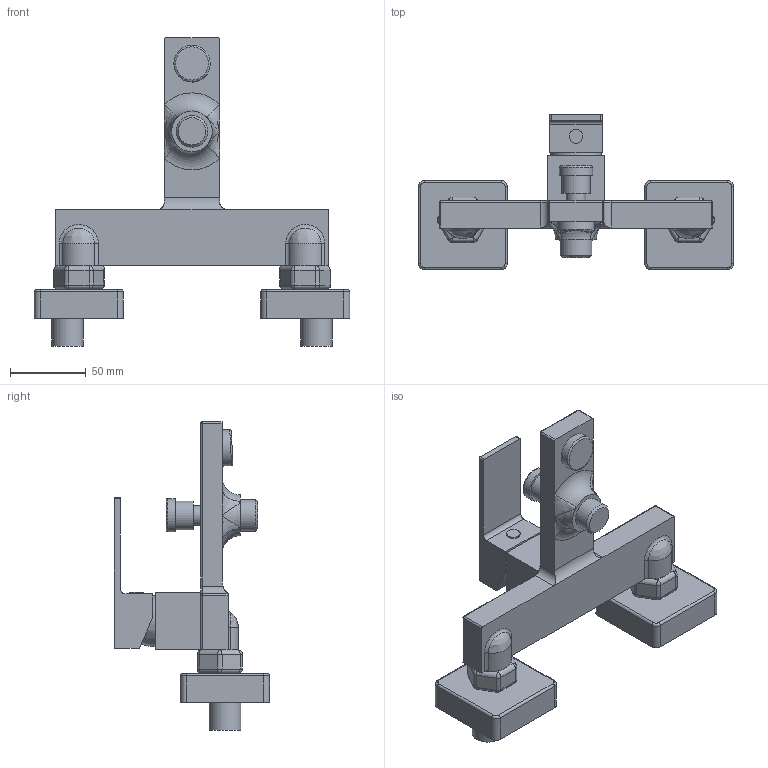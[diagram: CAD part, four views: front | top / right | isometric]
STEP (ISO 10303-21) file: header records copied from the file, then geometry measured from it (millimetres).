
FILE_DESCRIPTION(/* description */ ('CANTO bateria wannowa BRUSHED GOLD','CAx-IF Rec.Pracs.---Representation and Presentation of Product Manufacturing Information (PMI)---4.0---2014-10-13'),/* implementation_level */ '2;1');
FILE_NAME(/* name */ 'C:\Nextcloud\02_biblioteki_cad\Valvex\Projekt\PROJECTS\ETAP 7\CANTO\pochodne\2420480\2420480.stp',/* time_stamp */ '2022-12-06T09:50:04+01:00',/* author */ ('Alan Batog'),/* organization */ (''),/* preprocessor_version */ 'ST-DEVELOPER v18.1',/* originating_system */ 'Autodesk Inventor 2022',/* authorisation */ '');
FILE_SCHEMA (('AP242_MANAGED_MODEL_BASED_3D_ENGINEERING_MIM_LF { 1 0 10303 442 1 1 4 }'));
Length unit declared in the file: millimetre
Products named in the file (1): 2420480
Bounding box: 209 x 102.75 x 204.3 mm (x, y, z)
Volume: 465079.6 mm3; surface area: 79083.1 mm2
Topology: 2 solids, 2 shells, 200 faces, 444 edges, 255 vertices
Faces by surface type: cylinder 83, plane 67, sphere 24, torus 16, bspline 9, cone 1
Full cylindrical faces by diameter (mm): 9 x1, 13 x1, 19 x1, 21 x3, 22 x1, 24 x1
Entity records: 6318 total; most frequent: CARTESIAN_POINT 1626, DIRECTION 1028, ORIENTED_EDGE 880, EDGE_CURVE 440, AXIS2_PLACEMENT_3D 404, VERTEX_POINT 255, LINE 220, VECTOR 220
